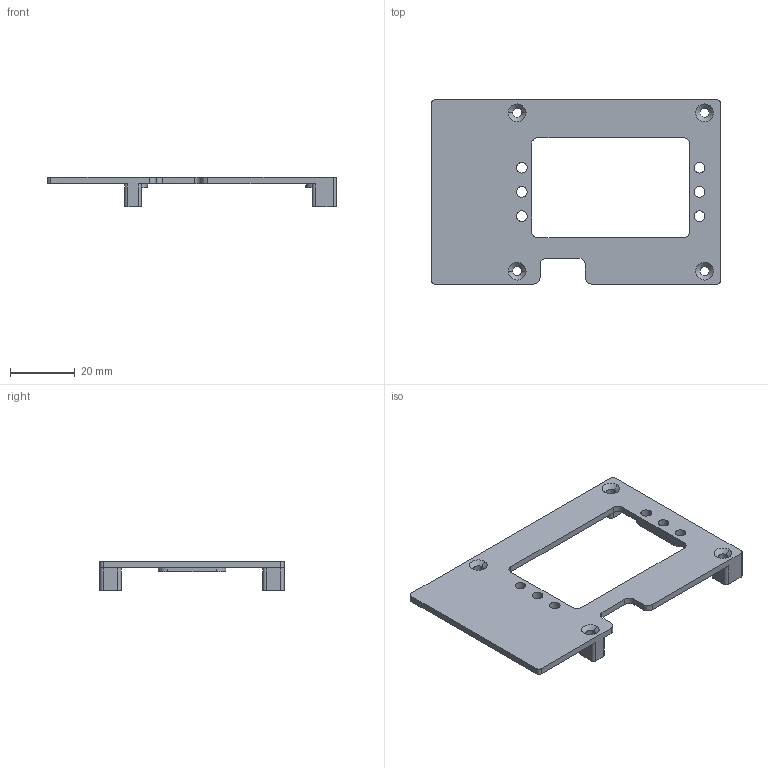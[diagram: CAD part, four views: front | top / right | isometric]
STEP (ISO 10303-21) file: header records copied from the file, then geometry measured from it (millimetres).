
FILE_DESCRIPTION (( 'STEP AP214' ), '1' );
FILE_NAME ('LubanCat 4-菁裔-202306121.STEP', '2025-12-26T07:44:48', ( '' ), ( '' ), 'SwSTEP 2.0', 'SolidWorks 2023', '' );
FILE_SCHEMA (( 'AUTOMOTIVE_DESIGN' ));
Length unit declared in the file: millimetre
Products named in the file (1): LubanCat 4-底盖-202306121
Bounding box: 89.47 x 57 x 9 mm (x, y, z)
Volume: 7947.4 mm3; surface area: 9020.5 mm2
Topology: 1 solids, 1 shells, 100 faces, 286 edges, 188 vertices
Faces by surface type: cylinder 56, plane 36, cone 8
Entity records: 3449 total; most frequent: CARTESIAN_POINT 671, DIRECTION 594, ORIENTED_EDGE 572, EDGE_CURVE 286, AXIS2_PLACEMENT_3D 213, VERTEX_POINT 188, VECTOR 168, LINE 168
